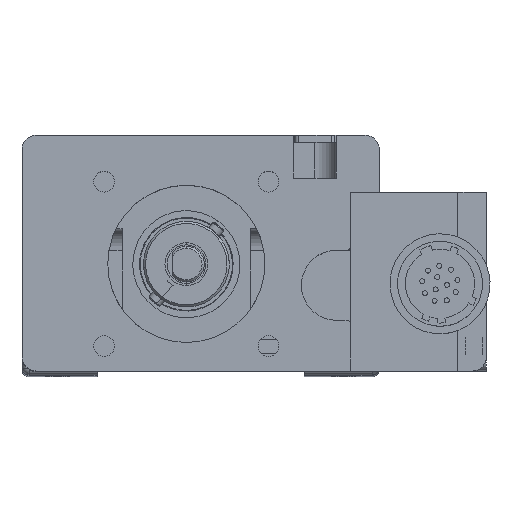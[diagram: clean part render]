
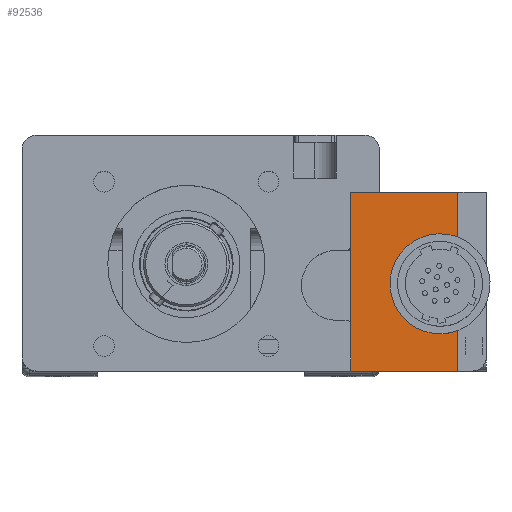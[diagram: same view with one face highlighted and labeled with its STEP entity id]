
A CAD part, top view. The second image highlights one B-rep face of the part: STEP entity #92536.
In plain terms, the highlighted planar face has unit normal (0, 0, 1).
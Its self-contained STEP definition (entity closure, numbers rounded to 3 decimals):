
#1035 = VERTEX_POINT ( 'NONE', #99211 ) ;
#3112 = VECTOR ( 'NONE', #80455, 1000. ) ;
#3575 = EDGE_LOOP ( 'NONE', ( #69255, #84871, #41099, #69385, #26947, #84030, #93510, #38309, #53099, #41273 ) ) ;
#7506 = DIRECTION ( 'NONE',  ( 0., -1., 0. ) ) ;
#8161 = CARTESIAN_POINT ( 'NONE',  ( 38., 25.5, 173. ) ) ;
#8774 = VERTEX_POINT ( 'NONE', #74743 ) ;
#10025 = EDGE_CURVE ( 'NONE', #8774, #76579, #51690, .T. ) ;
#10522 = CARTESIAN_POINT ( 'NONE',  ( 36., 6.6, 173. ) ) ;
#13193 = VERTEX_POINT ( 'NONE', #21372 ) ;
#13200 = CARTESIAN_POINT ( 'NONE',  ( 33.5, 17.4, 173. ) ) ;
#14402 = CARTESIAN_POINT ( 'NONE',  ( 33.5, 17.4, 173. ) ) ;
#15642 = CARTESIAN_POINT ( 'NONE',  ( 35., 7.6, 173. ) ) ;
#16279 = DIRECTION ( 'NONE',  ( 0., 0., 1. ) ) ;
#17428 = VERTEX_POINT ( 'NONE', #15642 ) ;
#19129 = VERTEX_POINT ( 'NONE', #87362 ) ;
#20416 = VERTEX_POINT ( 'NONE', #30966 ) ;
#21001 = DIRECTION ( 'NONE',  ( -1., 0., 0. ) ) ;
#21372 = CARTESIAN_POINT ( 'NONE',  ( 36., 0.5, 173. ) ) ;
#21862 = DIRECTION ( 'NONE',  ( 0., 1., 0. ) ) ;
#22215 = AXIS2_PLACEMENT_3D ( 'NONE', #73940, #16279, #7506 ) ;
#23704 = EDGE_CURVE ( 'NONE', #105550, #13193, #93940, .T. ) ;
#26947 = ORIENTED_EDGE ( 'NONE', *, *, #80132, .T. ) ;
#27259 = LINE ( 'NONE', #68955, #96788 ) ;
#27348 = AXIS2_PLACEMENT_3D ( 'NONE', #46423, #98554, #104629 ) ;
#30966 = CARTESIAN_POINT ( 'NONE',  ( 36., 18.4, 173. ) ) ;
#31608 = DIRECTION ( 'NONE',  ( 0., -1., 0. ) ) ;
#31820 = EDGE_CURVE ( 'NONE', #1035, #20416, #106221, .T. ) ;
#32874 = PLANE ( 'NONE',  #75331 ) ;
#33411 = VECTOR ( 'NONE', #86244, 1000. ) ;
#34699 = CARTESIAN_POINT ( 'NONE',  ( 36., 25.5, 173. ) ) ;
#38309 = ORIENTED_EDGE ( 'NONE', *, *, #69714, .T. ) ;
#41099 = ORIENTED_EDGE ( 'NONE', *, *, #47051, .F. ) ;
#41273 = ORIENTED_EDGE ( 'NONE', *, *, #77572, .F. ) ;
#42734 = LINE ( 'NONE', #55527, #95870 ) ;
#46423 = CARTESIAN_POINT ( 'NONE',  ( 35., 18.4, 173. ) ) ;
#47051 = EDGE_CURVE ( 'NONE', #8774, #20416, #27259, .T. ) ;
#51583 = VERTEX_POINT ( 'NONE', #79653 ) ;
#51690 = LINE ( 'NONE', #67598, #108541 ) ;
#53099 = ORIENTED_EDGE ( 'NONE', *, *, #88661, .F. ) ;
#53721 = CARTESIAN_POINT ( 'NONE',  ( 35., 6.6, 173. ) ) ;
#55527 = CARTESIAN_POINT ( 'NONE',  ( 33.5, 7.6, 173. ) ) ;
#57532 = FACE_OUTER_BOUND ( 'NONE', #3575, .T. ) ;
#60709 = DIRECTION ( 'NONE',  ( 0., -1., 0. ) ) ;
#60999 = DIRECTION ( 'NONE',  ( -1., 0., 0. ) ) ;
#63967 = LINE ( 'NONE', #97465, #3112 ) ;
#65912 = VERTEX_POINT ( 'NONE', #13200 ) ;
#65996 = CIRCLE ( 'NONE', #22215, 4.9 ) ;
#67598 = CARTESIAN_POINT ( 'NONE',  ( 38., 25.5, 173. ) ) ;
#68492 = AXIS2_PLACEMENT_3D ( 'NONE', #53721, #105829, #21862 ) ;
#68955 = CARTESIAN_POINT ( 'NONE',  ( 36., 25.5, 173. ) ) ;
#69255 = ORIENTED_EDGE ( 'NONE', *, *, #73953, .F. ) ;
#69385 = ORIENTED_EDGE ( 'NONE', *, *, #10025, .T. ) ;
#69714 = EDGE_CURVE ( 'NONE', #105550, #17428, #105320, .T. ) ;
#72031 = LINE ( 'NONE', #14402, #88273 ) ;
#73857 = CARTESIAN_POINT ( 'NONE',  ( 21., 25.5, 173. ) ) ;
#73940 = CARTESIAN_POINT ( 'NONE',  ( 33.5, 12.5, 173. ) ) ;
#73953 = EDGE_CURVE ( 'NONE', #1035, #65912, #72031, .T. ) ;
#74048 = DIRECTION ( 'NONE',  ( 0., 1., 0. ) ) ;
#74743 = CARTESIAN_POINT ( 'NONE',  ( 36., 25.5, 173. ) ) ;
#75331 = AXIS2_PLACEMENT_3D ( 'NONE', #8161, #82264, #74048 ) ;
#76579 = VERTEX_POINT ( 'NONE', #98387 ) ;
#77572 = EDGE_CURVE ( 'NONE', #65912, #19129, #65996, .T. ) ;
#79653 = CARTESIAN_POINT ( 'NONE',  ( 21., 0.5, 173. ) ) ;
#80132 = EDGE_CURVE ( 'NONE', #76579, #51583, #107307, .T. ) ;
#80455 = DIRECTION ( 'NONE',  ( -1., 0., 0. ) ) ;
#82264 = DIRECTION ( 'NONE',  ( 0., 0., -1. ) ) ;
#84030 = ORIENTED_EDGE ( 'NONE', *, *, #87716, .F. ) ;
#84438 = DIRECTION ( 'NONE',  ( 1., 0., 0. ) ) ;
#84871 = ORIENTED_EDGE ( 'NONE', *, *, #31820, .T. ) ;
#86244 = DIRECTION ( 'NONE',  ( 0., -1., 0. ) ) ;
#87362 = CARTESIAN_POINT ( 'NONE',  ( 33.5, 7.6, 173. ) ) ;
#87716 = EDGE_CURVE ( 'NONE', #13193, #51583, #63967, .T. ) ;
#88273 = VECTOR ( 'NONE', #21001, 1000. ) ;
#88661 = EDGE_CURVE ( 'NONE', #19129, #17428, #42734, .T. ) ;
#92536 = ADVANCED_FACE ( 'NONE', ( #57532 ), #32874, .F. ) ;
#93510 = ORIENTED_EDGE ( 'NONE', *, *, #23704, .F. ) ;
#93940 = LINE ( 'NONE', #34699, #33411 ) ;
#95870 = VECTOR ( 'NONE', #84438, 1000. ) ;
#96788 = VECTOR ( 'NONE', #60709, 1000. ) ;
#97465 = CARTESIAN_POINT ( 'NONE',  ( 38., 0.5, 173. ) ) ;
#98387 = CARTESIAN_POINT ( 'NONE',  ( 21., 25.5, 173. ) ) ;
#98554 = DIRECTION ( 'NONE',  ( 0., 0., 1. ) ) ;
#99211 = CARTESIAN_POINT ( 'NONE',  ( 35., 17.4, 173. ) ) ;
#99998 = VECTOR ( 'NONE', #31608, 1000. ) ;
#104629 = DIRECTION ( 'NONE',  ( 0., 1., 0. ) ) ;
#105320 = CIRCLE ( 'NONE', #68492, 1. ) ;
#105550 = VERTEX_POINT ( 'NONE', #10522 ) ;
#105829 = DIRECTION ( 'NONE',  ( 0., 0., 1. ) ) ;
#106221 = CIRCLE ( 'NONE', #27348, 1. ) ;
#107307 = LINE ( 'NONE', #73857, #99998 ) ;
#108541 = VECTOR ( 'NONE', #60999, 1000. ) ;
